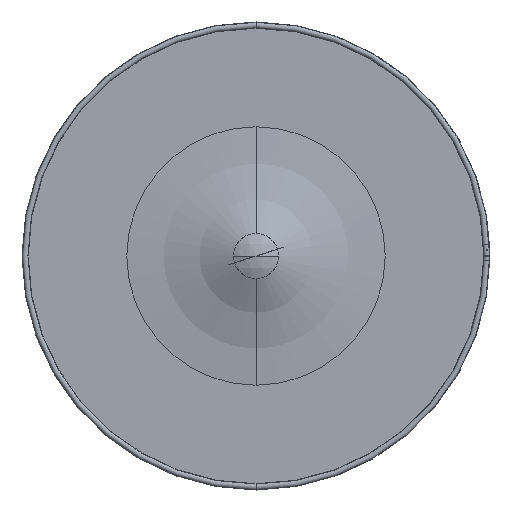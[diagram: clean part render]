
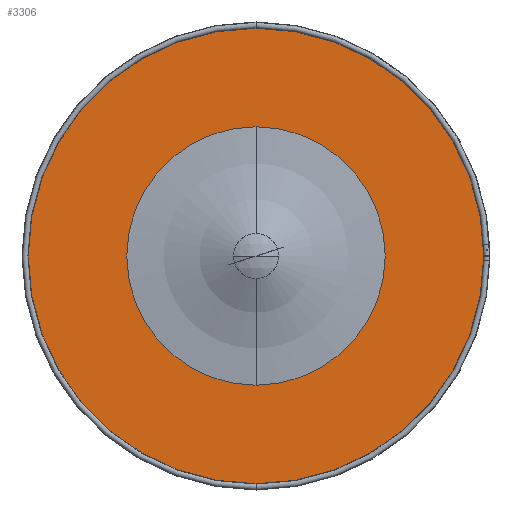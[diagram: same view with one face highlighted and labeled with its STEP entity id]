
A CAD part, front view. The second image highlights one B-rep face of the part: STEP entity #3306.
In plain terms, the highlighted planar face has unit normal (0, -1, 0).
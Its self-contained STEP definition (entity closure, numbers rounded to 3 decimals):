
#1985 = ORIENTED_EDGE ( 'NONE', *, *, #24434, .T. ) ;
#2364 = EDGE_LOOP ( 'NONE', ( #14925, #11355 ) ) ;
#2713 = AXIS2_PLACEMENT_3D ( 'NONE', #17413, #6102, #23263 ) ;
#3010 = FACE_BOUND ( 'NONE', #12051, .T. ) ;
#3306 = ADVANCED_FACE ( 'NONE', ( #3010, #16628 ), #22240, .T. ) ;
#3930 = DIRECTION ( 'NONE',  ( 0., 1., 0. ) ) ;
#4820 = CARTESIAN_POINT ( 'NONE',  ( -592., -553.5, 0. ) ) ;
#5767 = VERTEX_POINT ( 'NONE', #21121 ) ;
#6102 = DIRECTION ( 'NONE',  ( 0., 1., 0. ) ) ;
#7611 = AXIS2_PLACEMENT_3D ( 'NONE', #14707, #18405, #10911 ) ;
#7870 = CARTESIAN_POINT ( 'NONE',  ( 0., -553.5, 0. ) ) ;
#8083 = CARTESIAN_POINT ( 'NONE',  ( 0., -553.5, -331.282 ) ) ;
#9748 = EDGE_CURVE ( 'NONE', #18185, #23682, #11217, .T. ) ;
#10911 = DIRECTION ( 'NONE',  ( 0., 0., 1. ) ) ;
#11217 = CIRCLE ( 'NONE', #2713, 331.282 ) ;
#11355 = ORIENTED_EDGE ( 'NONE', *, *, #21730, .F. ) ;
#11373 = ORIENTED_EDGE ( 'NONE', *, *, #9748, .T. ) ;
#11491 = AXIS2_PLACEMENT_3D ( 'NONE', #7870, #3930, #11928 ) ;
#11928 = DIRECTION ( 'NONE',  ( 0., 0., 1. ) ) ;
#12051 = EDGE_LOOP ( 'NONE', ( #11373, #1985 ) ) ;
#14328 = EDGE_CURVE ( 'NONE', #23029, #5767, #22073, .T. ) ;
#14532 = CIRCLE ( 'NONE', #7611, 592. ) ;
#14707 = CARTESIAN_POINT ( 'NONE',  ( 0., -553.5, 0. ) ) ;
#14920 = CIRCLE ( 'NONE', #17773, 331.282 ) ;
#14925 = ORIENTED_EDGE ( 'NONE', *, *, #14328, .F. ) ;
#14982 = DIRECTION ( 'NONE',  ( 0., 0., -1. ) ) ;
#16360 = DIRECTION ( 'NONE',  ( 0., 0., 1. ) ) ;
#16628 = FACE_OUTER_BOUND ( 'NONE', #2364, .T. ) ;
#17413 = CARTESIAN_POINT ( 'NONE',  ( 0., -553.5, 0. ) ) ;
#17773 = AXIS2_PLACEMENT_3D ( 'NONE', #24007, #18017, #16360 ) ;
#18017 = DIRECTION ( 'NONE',  ( 0., 1., 0. ) ) ;
#18185 = VERTEX_POINT ( 'NONE', #20207 ) ;
#18295 = DIRECTION ( 'NONE',  ( 0., -1., 0. ) ) ;
#18356 = AXIS2_PLACEMENT_3D ( 'NONE', #4820, #18295, #14982 ) ;
#18405 = DIRECTION ( 'NONE',  ( 0., 1., 0. ) ) ;
#20207 = CARTESIAN_POINT ( 'NONE',  ( 0., -553.5, 331.282 ) ) ;
#21121 = CARTESIAN_POINT ( 'NONE',  ( 0., -553.5, -592. ) ) ;
#21730 = EDGE_CURVE ( 'NONE', #5767, #23029, #14532, .T. ) ;
#22073 = CIRCLE ( 'NONE', #11491, 592. ) ;
#22206 = CARTESIAN_POINT ( 'NONE',  ( 0., -553.5, 592. ) ) ;
#22240 = PLANE ( 'NONE',  #18356 ) ;
#23029 = VERTEX_POINT ( 'NONE', #22206 ) ;
#23263 = DIRECTION ( 'NONE',  ( 0., 0., 1. ) ) ;
#23682 = VERTEX_POINT ( 'NONE', #8083 ) ;
#24007 = CARTESIAN_POINT ( 'NONE',  ( 0., -553.5, 0. ) ) ;
#24434 = EDGE_CURVE ( 'NONE', #23682, #18185, #14920, .T. ) ;
